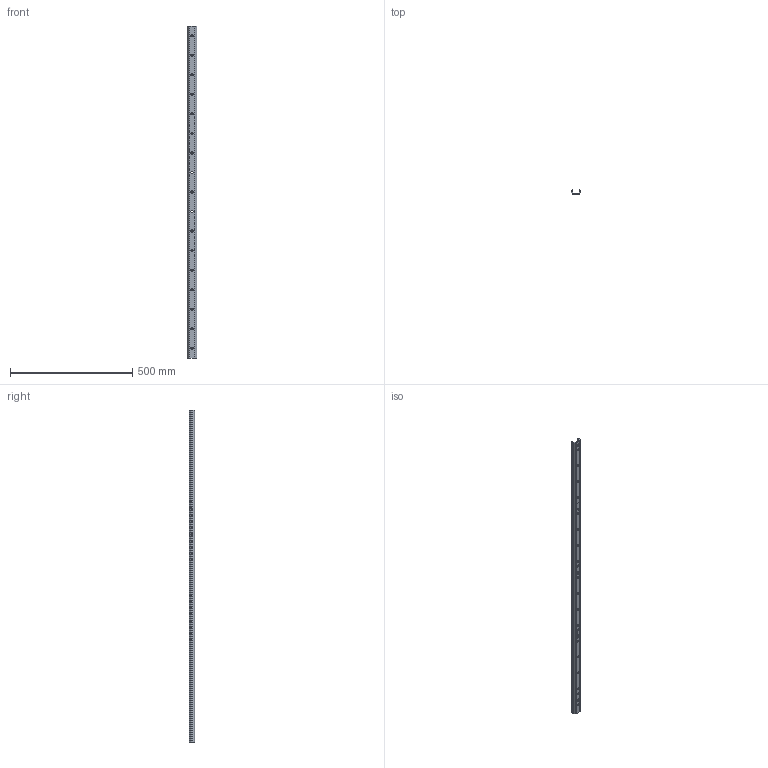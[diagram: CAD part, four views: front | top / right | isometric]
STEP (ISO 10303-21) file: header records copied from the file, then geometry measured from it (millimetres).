
FILE_DESCRIPTION(('STEP AP214'),'1');
FILE_NAME('rail_tex40-1360.stp','2019-03-08T08:33:15',('TraceParts'),('TraceParts S.A.'),'Spatial InterOp 3D',' ',' ');
FILE_SCHEMA(('automotive_design'));
Length unit declared in the file: millimetre
Products named in the file (1): rail_tex40-1360
Bounding box: 39.53 x 21 x 1360 mm (x, y, z)
Volume: 265897.3 mm3; surface area: 187499.2 mm2
Topology: 1 solids, 1 shells, 322 faces, 837 edges, 558 vertices
Faces by surface type: plane 225, bspline 51, cylinder 46
Entity records: 20260 total; most frequent: CARTESIAN_POINT 9933, ORIENTED_EDGE 1674, DIRECTION 1371, EDGE_CURVE 837, LINE 643, VECTOR 643, VERTEX_POINT 558, EDGE_LOOP 397
